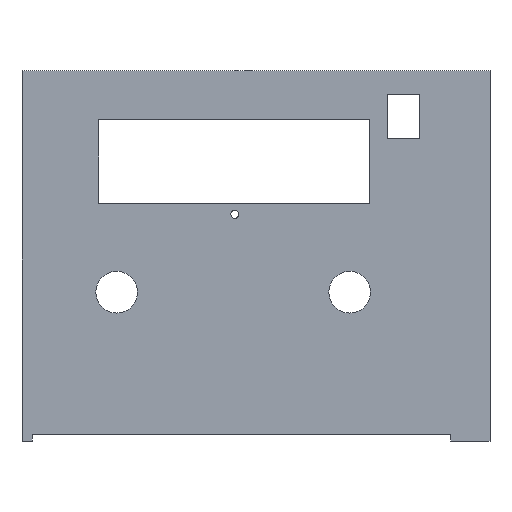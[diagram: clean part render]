
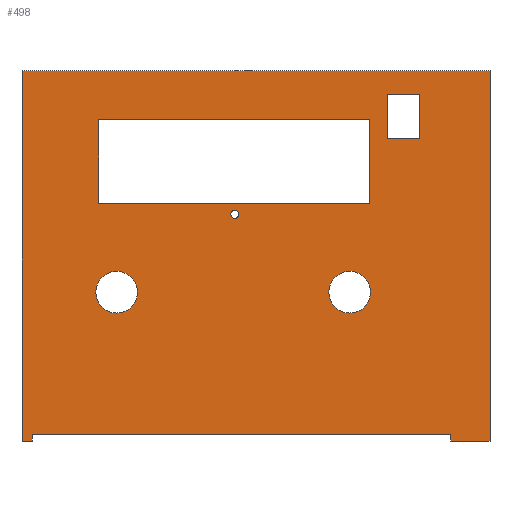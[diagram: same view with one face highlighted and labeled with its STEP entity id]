
A CAD part, top view. The second image highlights one B-rep face of the part: STEP entity #498.
In plain terms, the highlighted planar face has unit normal (0, 0, 1).
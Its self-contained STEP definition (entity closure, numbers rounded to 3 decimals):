
#23=FACE_BOUND('',#94,.T.);
#24=FACE_BOUND('',#95,.T.);
#25=FACE_BOUND('',#96,.T.);
#26=FACE_BOUND('',#97,.T.);
#27=FACE_BOUND('',#98,.T.);
#28=CIRCLE('',#518,0.013);
#30=CIRCLE('',#522,0.013);
#32=CIRCLE('',#529,8.);
#34=CIRCLE('',#536,1.56);
#36=CIRCLE('',#539,8.);
#65=FACE_OUTER_BOUND('',#93,.T.);
#93=EDGE_LOOP('',(#415,#416,#417,#418,#419,#420,#421,#422,#423,#424));
#94=EDGE_LOOP('',(#425));
#95=EDGE_LOOP('',(#426,#427,#428,#429));
#96=EDGE_LOOP('',(#430));
#97=EDGE_LOOP('',(#431));
#98=EDGE_LOOP('',(#432,#433,#434,#435));
#100=LINE('',#680,#153);
#103=LINE('',#686,#156);
#106=LINE('',#692,#159);
#110=LINE('',#704,#163);
#114=LINE('',#716,#167);
#117=LINE('',#722,#170);
#120=LINE('',#728,#173);
#123=LINE('',#733,#176);
#127=LINE('',#746,#180);
#130=LINE('',#752,#183);
#133=LINE('',#758,#186);
#136=LINE('',#763,#189);
#141=LINE('',#782,#194);
#144=LINE('',#788,#197);
#147=LINE('',#794,#200);
#150=LINE('',#799,#203);
#153=VECTOR('',#555,10.);
#156=VECTOR('',#560,10.);
#159=VECTOR('',#565,10.);
#163=VECTOR('',#577,10.);
#167=VECTOR('',#589,10.);
#170=VECTOR('',#594,10.);
#173=VECTOR('',#599,10.);
#176=VECTOR('',#604,10.);
#180=VECTOR('',#616,10.);
#183=VECTOR('',#621,10.);
#186=VECTOR('',#626,10.);
#189=VECTOR('',#631,10.);
#194=VECTOR('',#650,10.);
#197=VECTOR('',#655,10.);
#200=VECTOR('',#660,10.);
#203=VECTOR('',#665,10.);
#206=VERTEX_POINT('',#677);
#207=VERTEX_POINT('',#679);
#209=VERTEX_POINT('',#685);
#211=VERTEX_POINT('',#691);
#213=VERTEX_POINT('',#697);
#215=VERTEX_POINT('',#703);
#217=VERTEX_POINT('',#709);
#219=VERTEX_POINT('',#715);
#221=VERTEX_POINT('',#721);
#223=VERTEX_POINT('',#727);
#225=VERTEX_POINT('',#736);
#228=VERTEX_POINT('',#743);
#229=VERTEX_POINT('',#745);
#231=VERTEX_POINT('',#751);
#233=VERTEX_POINT('',#757);
#235=VERTEX_POINT('',#766);
#237=VERTEX_POINT('',#772);
#240=VERTEX_POINT('',#779);
#241=VERTEX_POINT('',#781);
#243=VERTEX_POINT('',#787);
#245=VERTEX_POINT('',#793);
#248=EDGE_CURVE('',#206,#207,#100,.T.);
#251=EDGE_CURVE('',#207,#209,#103,.T.);
#254=EDGE_CURVE('',#209,#211,#106,.T.);
#257=EDGE_CURVE('',#211,#213,#28,.F.);
#260=EDGE_CURVE('',#213,#215,#110,.T.);
#263=EDGE_CURVE('',#215,#217,#30,.F.);
#266=EDGE_CURVE('',#217,#219,#114,.T.);
#269=EDGE_CURVE('',#219,#221,#117,.T.);
#272=EDGE_CURVE('',#221,#223,#120,.T.);
#275=EDGE_CURVE('',#223,#206,#123,.T.);
#277=EDGE_CURVE('',#225,#225,#32,.F.);
#281=EDGE_CURVE('',#228,#229,#127,.T.);
#284=EDGE_CURVE('',#229,#231,#130,.T.);
#287=EDGE_CURVE('',#231,#233,#133,.T.);
#290=EDGE_CURVE('',#233,#228,#136,.T.);
#292=EDGE_CURVE('',#235,#235,#34,.F.);
#295=EDGE_CURVE('',#237,#237,#36,.F.);
#299=EDGE_CURVE('',#240,#241,#141,.T.);
#302=EDGE_CURVE('',#241,#243,#144,.T.);
#305=EDGE_CURVE('',#243,#245,#147,.T.);
#308=EDGE_CURVE('',#245,#240,#150,.T.);
#415=ORIENTED_EDGE('',*,*,#248,.F.);
#416=ORIENTED_EDGE('',*,*,#275,.F.);
#417=ORIENTED_EDGE('',*,*,#272,.F.);
#418=ORIENTED_EDGE('',*,*,#269,.F.);
#419=ORIENTED_EDGE('',*,*,#266,.F.);
#420=ORIENTED_EDGE('',*,*,#263,.F.);
#421=ORIENTED_EDGE('',*,*,#260,.F.);
#422=ORIENTED_EDGE('',*,*,#257,.F.);
#423=ORIENTED_EDGE('',*,*,#254,.F.);
#424=ORIENTED_EDGE('',*,*,#251,.F.);
#425=ORIENTED_EDGE('',*,*,#277,.F.);
#426=ORIENTED_EDGE('',*,*,#281,.F.);
#427=ORIENTED_EDGE('',*,*,#290,.F.);
#428=ORIENTED_EDGE('',*,*,#287,.F.);
#429=ORIENTED_EDGE('',*,*,#284,.F.);
#430=ORIENTED_EDGE('',*,*,#292,.F.);
#431=ORIENTED_EDGE('',*,*,#295,.F.);
#432=ORIENTED_EDGE('',*,*,#299,.F.);
#433=ORIENTED_EDGE('',*,*,#308,.F.);
#434=ORIENTED_EDGE('',*,*,#305,.F.);
#435=ORIENTED_EDGE('',*,*,#302,.F.);
#453=PLANE('',#546);
#498=ADVANCED_FACE('',(#65,#23,#24,#25,#26,#27),#453,.F.);
#518=AXIS2_PLACEMENT_3D('',#698,#570,#571);
#522=AXIS2_PLACEMENT_3D('',#710,#582,#583);
#529=AXIS2_PLACEMENT_3D('',#737,#608,#609);
#536=AXIS2_PLACEMENT_3D('',#767,#635,#636);
#539=AXIS2_PLACEMENT_3D('',#773,#642,#643);
#546=AXIS2_PLACEMENT_3D('',#802,#669,#670);
#555=DIRECTION('',(0.,-1.,0.));
#560=DIRECTION('',(-1.,0.,0.));
#565=DIRECTION('',(0.,1.,0.));
#570=DIRECTION('center_axis',(0.,0.,-1.));
#571=DIRECTION('ref_axis',(1.,0.,0.));
#577=DIRECTION('',(-1.,0.,0.));
#582=DIRECTION('center_axis',(0.,0.,-1.));
#583=DIRECTION('ref_axis',(0.,1.,0.));
#589=DIRECTION('',(0.,-1.,0.));
#594=DIRECTION('',(-1.,0.,0.));
#599=DIRECTION('',(0.,1.,0.));
#604=DIRECTION('',(1.,0.,0.));
#608=DIRECTION('center_axis',(0.,0.,-1.));
#609=DIRECTION('ref_axis',(1.,0.,0.));
#616=DIRECTION('',(-1.,0.,0.));
#621=DIRECTION('',(0.,-1.,0.));
#626=DIRECTION('',(1.,0.,0.));
#631=DIRECTION('',(0.,1.,0.));
#635=DIRECTION('center_axis',(0.,0.,-1.));
#636=DIRECTION('ref_axis',(1.,0.,0.));
#642=DIRECTION('center_axis',(0.,0.,-1.));
#643=DIRECTION('ref_axis',(1.,0.,0.));
#650=DIRECTION('',(-1.,0.,0.));
#655=DIRECTION('',(0.,-1.,0.));
#660=DIRECTION('',(1.,0.,0.));
#665=DIRECTION('',(0.,1.,0.));
#669=DIRECTION('center_axis',(0.,0.,-1.));
#670=DIRECTION('ref_axis',(-1.,0.,0.));
#677=CARTESIAN_POINT('',(318.428,718.606,1.44));
#679=CARTESIAN_POINT('',(318.428,576.594,1.44));
#680=CARTESIAN_POINT('',(318.428,683.145,1.44));
#685=CARTESIAN_POINT('',(303.442,576.594,1.44));
#686=CARTESIAN_POINT('',(273.534,576.594,1.44));
#691=CARTESIAN_POINT('',(303.442,579.248,1.44));
#692=CARTESIAN_POINT('',(303.442,612.139,1.44));
#697=CARTESIAN_POINT('',(303.429,579.261,1.44));
#698=CARTESIAN_POINT('Origin',(303.429,579.248,1.44));
#703=CARTESIAN_POINT('',(142.971,579.261,1.44));
#704=CARTESIAN_POINT('',(266.035,579.261,1.44));
#709=CARTESIAN_POINT('',(142.959,579.248,1.44));
#710=CARTESIAN_POINT('Origin',(142.971,579.248,1.44));
#715=CARTESIAN_POINT('',(142.959,576.58,1.44));
#716=CARTESIAN_POINT('',(142.959,613.466,1.44));
#721=CARTESIAN_POINT('',(138.951,576.58,1.44));
#722=CARTESIAN_POINT('',(185.8,576.58,1.44));
#727=CARTESIAN_POINT('',(138.951,718.606,1.44));
#728=CARTESIAN_POINT('',(138.951,612.132,1.44));
#733=CARTESIAN_POINT('',(183.796,718.606,1.44));
#736=CARTESIAN_POINT('',(167.26,633.731,1.44));
#737=CARTESIAN_POINT('Origin',(175.26,633.731,1.44));
#743=CARTESIAN_POINT('',(272.377,699.822,1.44));
#745=CARTESIAN_POINT('',(168.377,699.822,1.44));
#746=CARTESIAN_POINT('',(250.509,699.822,1.44));
#751=CARTESIAN_POINT('',(168.377,667.822,1.44));
#752=CARTESIAN_POINT('',(168.377,673.753,1.44));
#757=CARTESIAN_POINT('',(272.377,667.822,1.44));
#758=CARTESIAN_POINT('',(198.509,667.822,1.44));
#763=CARTESIAN_POINT('',(272.377,657.753,1.44));
#766=CARTESIAN_POINT('',(219.014,663.602,1.44));
#767=CARTESIAN_POINT('Origin',(220.574,663.602,1.44));
#772=CARTESIAN_POINT('',(256.618,633.731,1.44));
#773=CARTESIAN_POINT('Origin',(264.618,633.731,1.44));
#779=CARTESIAN_POINT('',(291.344,709.576,1.44));
#781=CARTESIAN_POINT('',(278.994,709.576,1.44));
#782=CARTESIAN_POINT('',(259.992,709.576,1.44));
#787=CARTESIAN_POINT('',(278.994,692.576,1.44));
#788=CARTESIAN_POINT('',(278.994,678.63,1.44));
#793=CARTESIAN_POINT('',(291.344,692.576,1.44));
#794=CARTESIAN_POINT('',(253.817,692.576,1.44));
#799=CARTESIAN_POINT('',(291.344,670.13,1.44));
#802=CARTESIAN_POINT('Origin',(228.641,647.685,1.44));
